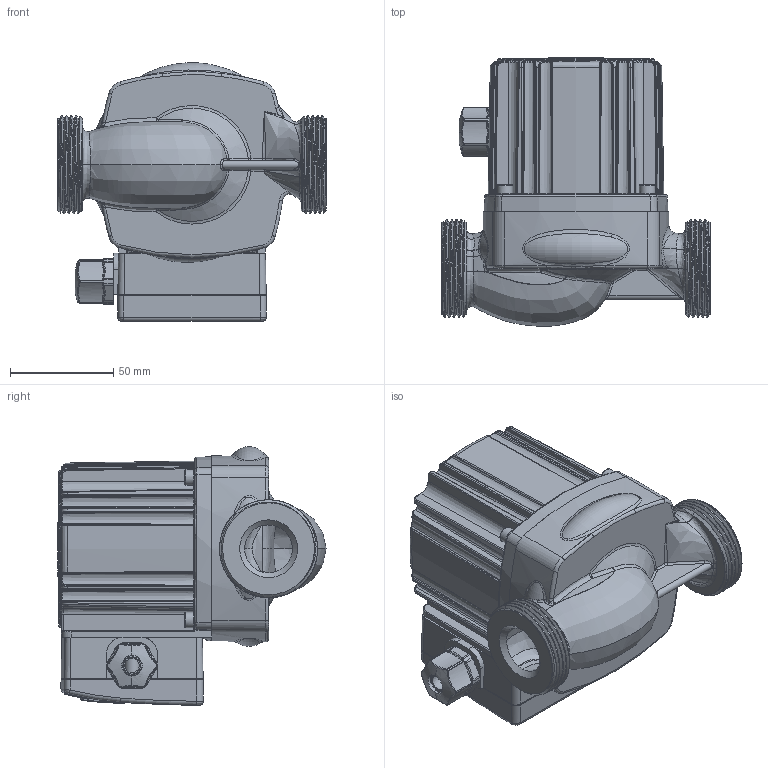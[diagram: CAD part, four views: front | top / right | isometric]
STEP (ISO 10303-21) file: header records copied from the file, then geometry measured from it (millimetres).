
FILE_DESCRIPTION(('STEP AP242'), '1');
FILE_NAME('VRS.254.13 256.13', '2025-10-08T11:41:12', (''), (''), 'C3D Converter', 'C3D Toolkit', '');
FILE_SCHEMA(('AP242_MANAGED_MODEL_BASED_3D_ENGINEERING_MIM_LF { 1 0 10303 442 1 1 4 }'));
Length unit declared in the file: millimetre
Products named in the file (1): 25-4E-130_ASM
Bounding box: 130 x 129.93 x 125.23 mm (x, y, z)
Volume: 282374 mm3; surface area: 196634.7 mm2
Topology: 4 solids, 29 shells, 2547 faces, 6386 edges, 3873 vertices
Faces by surface type: cylinder 646, plane 646, bspline 570, torus 488, cone 135, sphere 57, extrusion 5
Full cylindrical faces by diameter (mm): 3 x4, 3.3 x4, 4 x5, 4.2 x4, 4.5 x2, 5 x5, 7 x3, 7.5 x5, 7.6 x4, 8 x2, 9 x1, 10 x3, 12 x2, 14 x2, 15.1 x1, 16 x1, 17.1 x1, 19 x2, 21 x1, 22 x2, 23.5 x1, 24 x1, 25.6 x1, 26 x1, 28.5 x1, 30 x1, 32.5 x1, 35.5 x1, 36 x1, 38.25 x1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
Entity records: 277871 total; most frequent: CARTESIAN_POINT 206930, ORIENTED_EDGE 12056, DIRECTION 7718, EDGE_CURVE 6028, VERTEX_POINT 3828, B_SPLINE_CURVE_WITH_KNOTS 3286, AXIS2_PLACEMENT_3D 3103, EDGE_LOOP 2839
